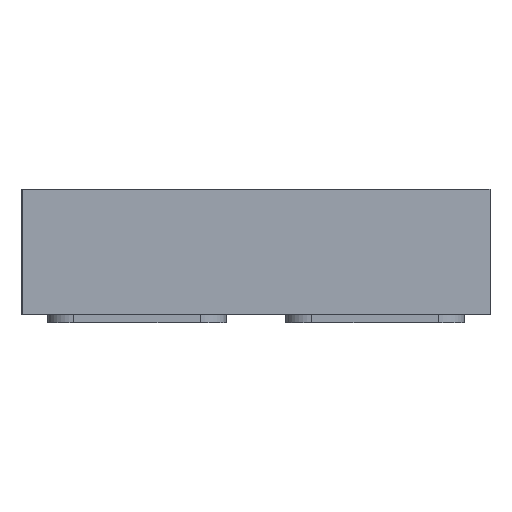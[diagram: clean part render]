
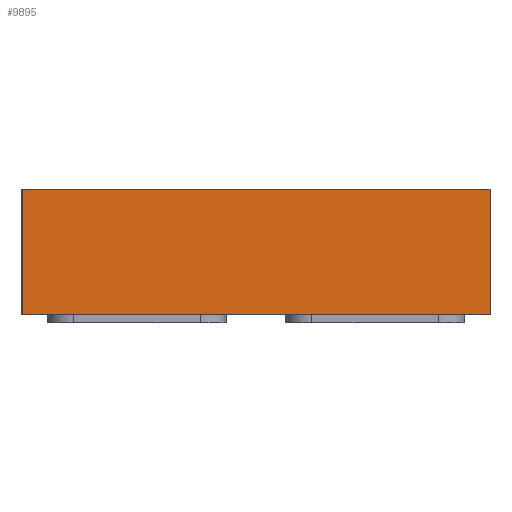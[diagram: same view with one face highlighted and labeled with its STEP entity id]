
A CAD part, front view. The second image highlights one B-rep face of the part: STEP entity #9895.
In plain terms, the highlighted planar face has unit normal (0, -1, 0).
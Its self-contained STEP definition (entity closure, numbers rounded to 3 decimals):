
#461 = LINE ( 'NONE', #3399, #4379 ) ;
#748 = DIRECTION ( 'NONE',  ( 1., 0., 0. ) ) ;
#833 = DIRECTION ( 'NONE',  ( 0., 0., -1. ) ) ;
#1890 = CARTESIAN_POINT ( 'NONE',  ( -1.365, -1.5, -0.73 ) ) ;
#2235 = CARTESIAN_POINT ( 'NONE',  ( -1.365, -1.5, -0.73 ) ) ;
#2571 = VERTEX_POINT ( 'NONE', #10658 ) ;
#2904 = DIRECTION ( 'NONE',  ( 0., 0., 1. ) ) ;
#2935 = CARTESIAN_POINT ( 'NONE',  ( -1.365, -1.5, -0.73 ) ) ;
#3019 = EDGE_CURVE ( 'NONE', #15586, #14416, #5889, .T. ) ;
#3399 = CARTESIAN_POINT ( 'NONE',  ( -1.365, -1.5, 0. ) ) ;
#3877 = EDGE_LOOP ( 'NONE', ( #16746, #17282, #12340, #8618 ) ) ;
#4379 = VECTOR ( 'NONE', #9983, 1000. ) ;
#5164 = EDGE_CURVE ( 'NONE', #15586, #8950, #14877, .T. ) ;
#5233 = AXIS2_PLACEMENT_3D ( 'NONE', #2235, #10266, #833 ) ;
#5836 = EDGE_CURVE ( 'NONE', #8950, #2571, #461, .T. ) ;
#5889 = LINE ( 'NONE', #1890, #13631 ) ;
#7120 = EDGE_CURVE ( 'NONE', #14416, #2571, #9566, .T. ) ;
#8618 = ORIENTED_EDGE ( 'NONE', *, *, #7120, .T. ) ;
#8950 = VERTEX_POINT ( 'NONE', #10492 ) ;
#9006 = FACE_OUTER_BOUND ( 'NONE', #3877, .T. ) ;
#9566 = LINE ( 'NONE', #10731, #14913 ) ;
#9895 = ADVANCED_FACE ( 'NONE', ( #9006 ), #16973, .T. ) ;
#9983 = DIRECTION ( 'NONE',  ( 1., 0., 0. ) ) ;
#10266 = DIRECTION ( 'NONE',  ( 0., -1., 0. ) ) ;
#10492 = CARTESIAN_POINT ( 'NONE',  ( -1.365, -1.5, 0. ) ) ;
#10658 = CARTESIAN_POINT ( 'NONE',  ( 1.365, -1.5, 0. ) ) ;
#10731 = CARTESIAN_POINT ( 'NONE',  ( 1.365, -1.5, -0.73 ) ) ;
#12340 = ORIENTED_EDGE ( 'NONE', *, *, #3019, .T. ) ;
#12542 = VECTOR ( 'NONE', #15041, 1000. ) ;
#13017 = CARTESIAN_POINT ( 'NONE',  ( -1.365, -1.5, -0.73 ) ) ;
#13631 = VECTOR ( 'NONE', #748, 1000. ) ;
#14416 = VERTEX_POINT ( 'NONE', #17320 ) ;
#14877 = LINE ( 'NONE', #2935, #12542 ) ;
#14913 = VECTOR ( 'NONE', #2904, 1000. ) ;
#15041 = DIRECTION ( 'NONE',  ( 0., 0., 1. ) ) ;
#15586 = VERTEX_POINT ( 'NONE', #13017 ) ;
#16746 = ORIENTED_EDGE ( 'NONE', *, *, #5836, .F. ) ;
#16973 = PLANE ( 'NONE',  #5233 ) ;
#17282 = ORIENTED_EDGE ( 'NONE', *, *, #5164, .F. ) ;
#17320 = CARTESIAN_POINT ( 'NONE',  ( 1.365, -1.5, -0.73 ) ) ;
